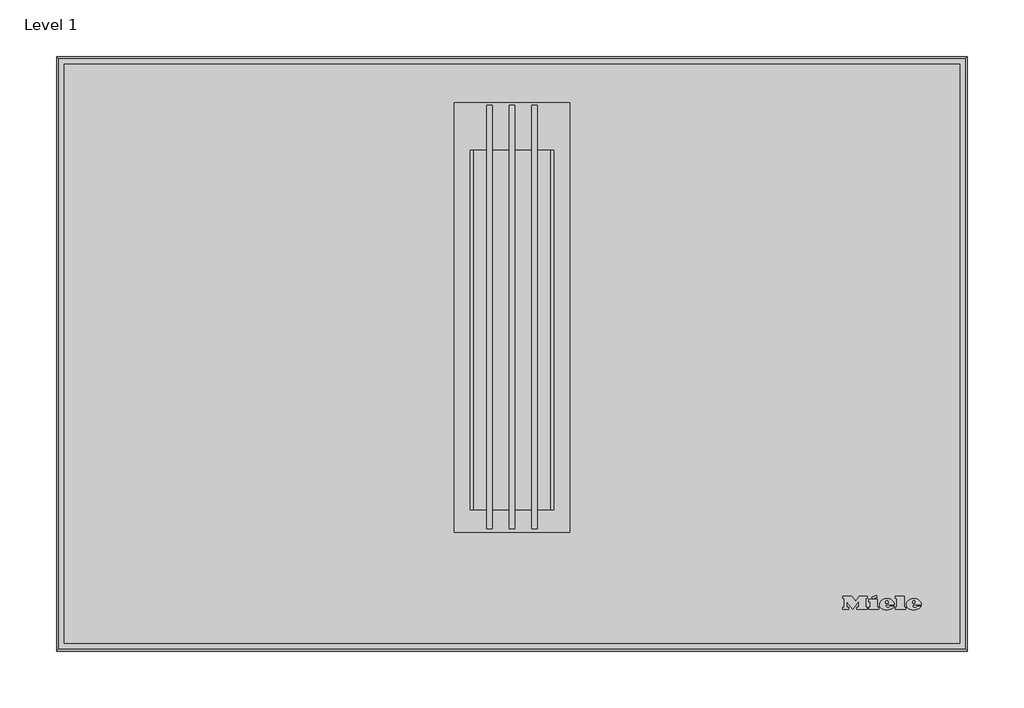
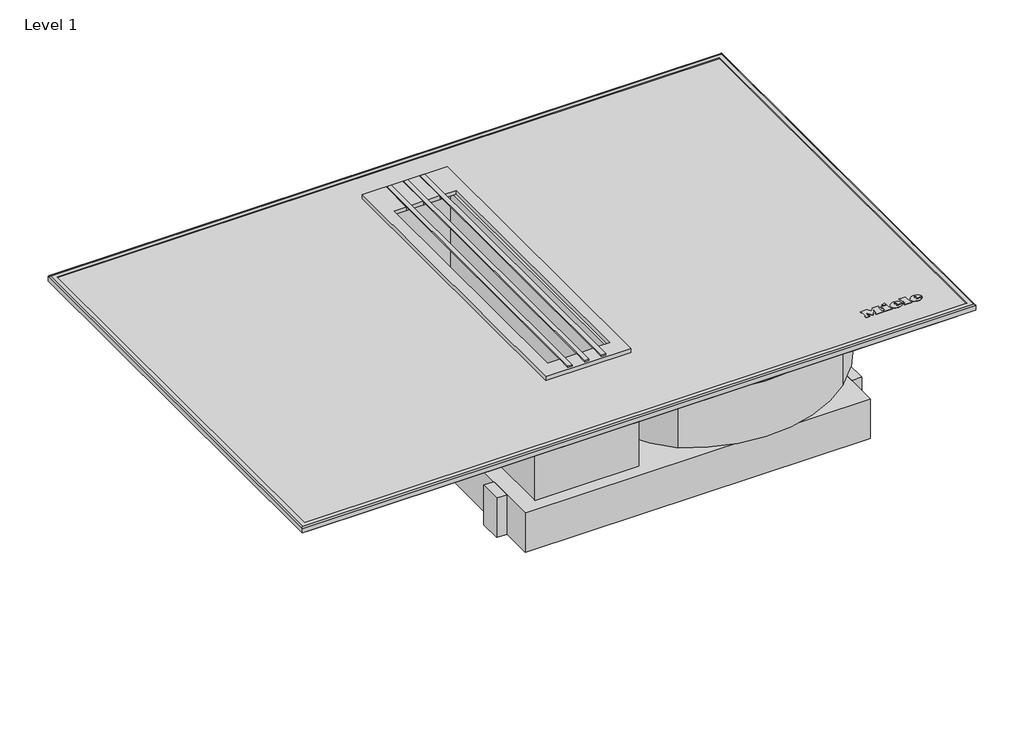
# One storey: 1 proxy.
"""IFC4 building model written with IfcOpenShell, lengths in millimetres."""

from ifc_helpers import new_model, si_unit, origin, place, context, project, spatial, transform, mapped, element, save
from components import specialty_equipment_09bc2874

model = new_model("IFC4")

# Units and contexts
model_context = context("Model", 3, world=origin())
ifc_project = project(units=[si_unit("LENGTHUNIT", "METRE", prefix="MILLI")], contexts=[model_context])

# Site, building, storey
site = spatial("IfcSite", under=ifc_project)
building = spatial("IfcBuilding", under=site)
storey = spatial("IfcBuildingStorey", under=building, Name="Level 1", Elevation=0.0)

# Proxy
placement = place(None, origin())
specialty_equipment_shape = specialty_equipment_09bc2874(model_context)
element("IfcBuildingElementProxy", 1, Name="11325850_RU_KMDA7633FR : 26763301_RU_11325850_KMDA7633FR", ObjectType="11325850_RU_KMDA7633FR : 26763301_RU_11325850_KMDA7633FR", at=placement, inside=storey, context=model_context, shape_type="MappedRepresentation", body=[
    mapped(specialty_equipment_shape, transform((0.0, 0.0, 0.0), x_axis=(1.0, 0.0, 0.0), y_axis=(0.0, 1.0, 0.0), z_axis=(0.0, 0.0, 1.0))),
])

save(model, "model.ifc")
